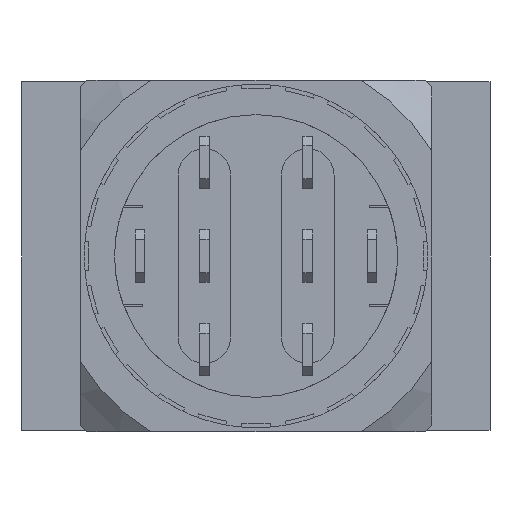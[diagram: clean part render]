
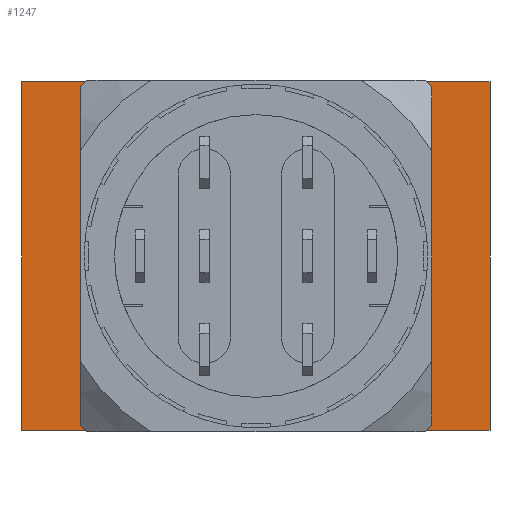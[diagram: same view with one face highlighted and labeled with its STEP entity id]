
A CAD part, front view. The second image highlights one B-rep face of the part: STEP entity #1247.
In plain terms, the highlighted planar face has unit normal (0, -1, 0).
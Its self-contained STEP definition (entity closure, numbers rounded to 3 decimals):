
#78 = DIRECTION ( 'NONE',  ( 0., -1., 0. ) ) ;
#123 = PLANE ( 'NONE',  #3881 ) ;
#124 = DIRECTION ( 'NONE',  ( 0., 0., -1. ) ) ;
#125 = CARTESIAN_POINT ( 'NONE',  ( 0., 18., 0. ) ) ;
#568 = CARTESIAN_POINT ( 'NONE',  ( 8.65, 18., 0. ) ) ;
#576 = CARTESIAN_POINT ( 'NONE',  ( -8.65, 18., 0. ) ) ;
#1173 = EDGE_CURVE ( 'NONE', #7763, #7768, #2761, .T. ) ;
#1247 = ADVANCED_FACE ( 'NONE', ( #3200, #3394 ), #123, .T. ) ;
#1736 = CARTESIAN_POINT ( 'NONE',  ( 0., 18., 0. ) ) ;
#1819 = DIRECTION ( 'NONE',  ( -1., 0., 0. ) ) ;
#2002 = DIRECTION ( 'NONE',  ( 0., 1., 0. ) ) ;
#2761 = CIRCLE ( 'NONE', #3343, 8.65 ) ;
#2913 = CIRCLE ( 'NONE', #6702, 8.65 ) ;
#3200 = FACE_BOUND ( 'NONE', #8289, .T. ) ;
#3343 = AXIS2_PLACEMENT_3D ( 'NONE', #1736, #2002, #1819 ) ;
#3394 = FACE_OUTER_BOUND ( 'NONE', #8119, .T. ) ;
#3881 = AXIS2_PLACEMENT_3D ( 'NONE', #125, #78, #124 ) ;
#5167 = CARTESIAN_POINT ( 'NONE',  ( -12., 18., 8.925 ) ) ;
#5239 = LINE ( 'NONE', #5167, #6568 ) ;
#5243 = DIRECTION ( 'NONE',  ( 1., 0., 0. ) ) ;
#5476 = CARTESIAN_POINT ( 'NONE',  ( -12., 18., 8.925 ) ) ;
#5480 = LINE ( 'NONE', #5476, #6576 ) ;
#5499 = CARTESIAN_POINT ( 'NONE',  ( -12., 18., 8.925 ) ) ;
#5502 = DIRECTION ( 'NONE',  ( 0., 0., -1. ) ) ;
#5505 = DIRECTION ( 'NONE',  ( -1., 0., 0. ) ) ;
#5510 = DIRECTION ( 'NONE',  ( 0., 0., 1. ) ) ;
#5617 = CARTESIAN_POINT ( 'NONE',  ( 12., 18., 8.925 ) ) ;
#5619 = LINE ( 'NONE', #5617, #6588 ) ;
#5626 = LINE ( 'NONE', #5627, #6581 ) ;
#5627 = CARTESIAN_POINT ( 'NONE',  ( -12., 18., -8.925 ) ) ;
#5694 = CARTESIAN_POINT ( 'NONE',  ( 12., 18., -8.925 ) ) ;
#5706 = CARTESIAN_POINT ( 'NONE',  ( 12., 18., 8.925 ) ) ;
#5736 = CARTESIAN_POINT ( 'NONE',  ( -12., 18., -8.925 ) ) ;
#6317 = EDGE_CURVE ( 'NONE', #7768, #7763, #2913, .T. ) ;
#6514 = EDGE_CURVE ( 'NONE', #7434, #7445, #5239, .T. ) ;
#6522 = EDGE_CURVE ( 'NONE', #7388, #7434, #5480, .T. ) ;
#6529 = EDGE_CURVE ( 'NONE', #7392, #7388, #5626, .T. ) ;
#6533 = EDGE_CURVE ( 'NONE', #7445, #7392, #5619, .T. ) ;
#6568 = VECTOR ( 'NONE', #5243, 1000. ) ;
#6576 = VECTOR ( 'NONE', #5510, 1000. ) ;
#6581 = VECTOR ( 'NONE', #5505, 1000. ) ;
#6588 = VECTOR ( 'NONE', #5502, 1000. ) ;
#6702 = AXIS2_PLACEMENT_3D ( 'NONE', #9271, #9246, #9214 ) ;
#7388 = VERTEX_POINT ( 'NONE', #5736 ) ;
#7392 = VERTEX_POINT ( 'NONE', #5694 ) ;
#7434 = VERTEX_POINT ( 'NONE', #5499 ) ;
#7445 = VERTEX_POINT ( 'NONE', #5706 ) ;
#7763 = VERTEX_POINT ( 'NONE', #576 ) ;
#7768 = VERTEX_POINT ( 'NONE', #568 ) ;
#8010 = ORIENTED_EDGE ( 'NONE', *, *, #1173, .T. ) ;
#8011 = ORIENTED_EDGE ( 'NONE', *, *, #6514, .F. ) ;
#8013 = ORIENTED_EDGE ( 'NONE', *, *, #6533, .F. ) ;
#8015 = ORIENTED_EDGE ( 'NONE', *, *, #6529, .F. ) ;
#8018 = ORIENTED_EDGE ( 'NONE', *, *, #6522, .F. ) ;
#8019 = ORIENTED_EDGE ( 'NONE', *, *, #6317, .T. ) ;
#8119 = EDGE_LOOP ( 'NONE', ( #8013, #8011, #8018, #8015 ) ) ;
#8289 = EDGE_LOOP ( 'NONE', ( #8010, #8019 ) ) ;
#9214 = DIRECTION ( 'NONE',  ( -1., 0., 0. ) ) ;
#9246 = DIRECTION ( 'NONE',  ( 0., 1., 0. ) ) ;
#9271 = CARTESIAN_POINT ( 'NONE',  ( 0., 18., 0. ) ) ;
